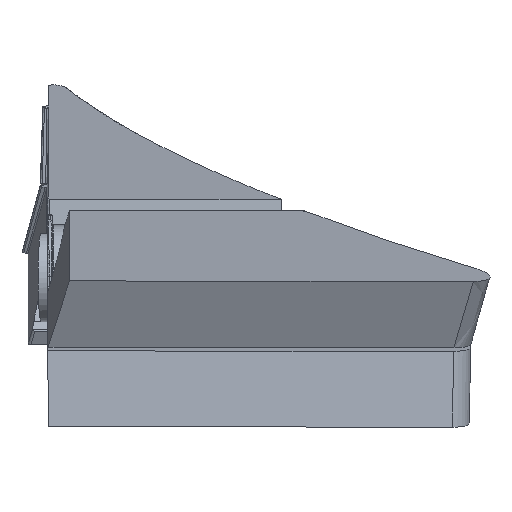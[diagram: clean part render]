
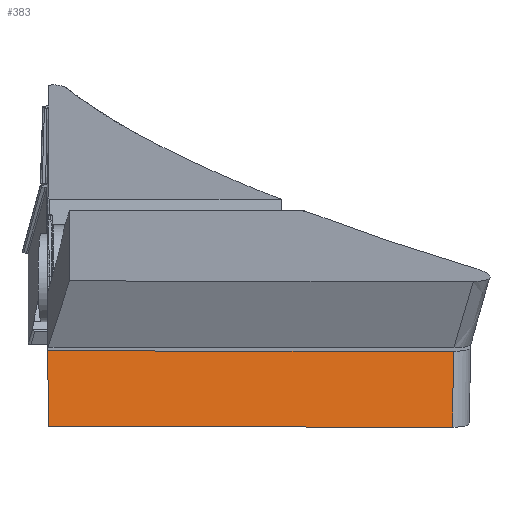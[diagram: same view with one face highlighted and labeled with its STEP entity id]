
A CAD part, top view. The second image highlights one B-rep face of the part: STEP entity #383.
In plain terms, the highlighted planar face has unit normal (0.53, -0.018, 0.848).
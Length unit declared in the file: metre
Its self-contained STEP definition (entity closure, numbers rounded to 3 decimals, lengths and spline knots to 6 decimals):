
#383=ADVANCED_FACE('',(#1009),#1010,.F.);
#1009=FACE_OUTER_BOUND('',#5159,.T.);
#1010=PLANE('',#5160);
#5159=EDGE_LOOP('',(#16548,#16549,#16550,#16551,#16552));
#5160=AXIS2_PLACEMENT_3D('',#16553,#16554,#16555);
#16548=ORIENTED_EDGE('',*,*,#18805,.F.);
#16549=ORIENTED_EDGE('',*,*,#18595,.F.);
#16550=ORIENTED_EDGE('',*,*,#18806,.F.);
#16551=ORIENTED_EDGE('',*,*,#18767,.F.);
#16552=ORIENTED_EDGE('',*,*,#18608,.T.);
#16553=CARTESIAN_POINT('',(0.111829,-0.040069,0.101897));
#16554=DIRECTION('',(-0.53,0.017,-0.848));
#16555=DIRECTION('',(-0.848,0.,0.53));
#18595=EDGE_CURVE('',#19662,#19663,#19664,.T.);
#18608=EDGE_CURVE('',#19679,#19686,#19688,.T.);
#18767=EDGE_CURVE('',#19679,#19961,#19962,.T.);
#18805=EDGE_CURVE('',#19663,#19686,#20017,.T.);
#18806=EDGE_CURVE('',#19961,#19662,#20018,.F.);
#19662=VERTEX_POINT('',#21626);
#19663=VERTEX_POINT('',#21627);
#19664=LINE('',#21628,#21629);
#19679=VERTEX_POINT('',#21705);
#19686=VERTEX_POINT('',#21727);
#19688=LINE('',#21730,#21731);
#19961=VERTEX_POINT('',#22387);
#19962=LINE('',#22388,#22389);
#20017=ELLIPSE('',#22542,0.000591,0.000491);
#20018=LINE('',#22543,#22544);
#21626=CARTESIAN_POINT('',(0.220217,-0.081287,0.03332));
#21627=CARTESIAN_POINT('',(0.001141,-0.081287,0.170214));
#21628=CARTESIAN_POINT('',(0.145548,-0.081287,0.079979));
#21629=VECTOR('',#25305,1.0);
#21705=CARTESIAN_POINT('',(0.,-0.040069,0.171776));
#21727=CARTESIAN_POINT('',(0.000717,-0.080859,0.170488));
#21730=CARTESIAN_POINT('',(0.000073,-0.044235,0.171644));
#21731=VECTOR('',#25313,1.0);
#22387=CARTESIAN_POINT('',(0.220598,-0.040069,0.033931));
#22388=CARTESIAN_POINT('',(0.111829,-0.040069,0.101897));
#22389=VECTOR('',#25452,1.0);
#22542=AXIS2_PLACEMENT_3D('',#25486,#25487,#25488);
#22543=CARTESIAN_POINT('',(0.220483,-0.052496,0.033747));
#22544=VECTOR('',#25489,1.0);
#25305=DIRECTION('',(-0.848,0.,0.53));
#25313=DIRECTION('',(0.018,-0.999,-0.032));
#25452=DIRECTION('',(0.848,0.,-0.53));
#25486=CARTESIAN_POINT('',(0.001208,-0.080781,0.170183));
#25487=DIRECTION('',(-0.53,0.017,-0.848));
#25488=DIRECTION('',(0.791,0.372,-0.486));
#25489=DIRECTION('',(0.009,1.,0.015));
